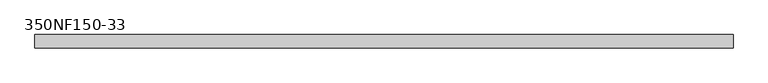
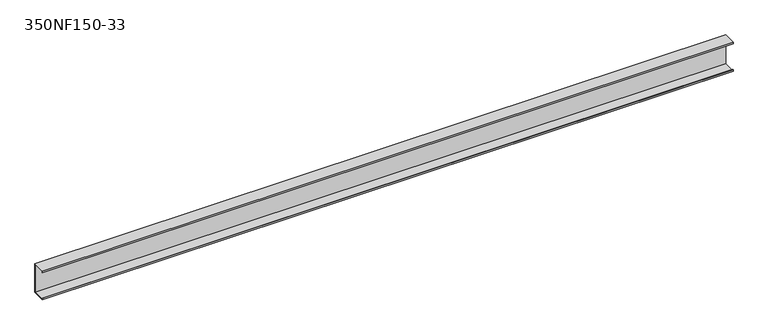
"""IFC4 building model written with IfcOpenShell, lengths in millimetres: beam geometry, BIMSF-SSMA-S : 350NF150-33."""

from ifc_helpers import new_model, si_unit, frame, origin, place, context, project, spatial, polyline, outline, extrude, source, transform, mapped, element, save


def beam_350nf150_33_9bf1c67c(model_context):
    return source(origin(), model_context, "Body", "SweptSolid", [
        extrude(outline(polyline([(19.05, 44.45), (19.05, -44.45), (-19.05, -44.45), (-19.05, -39.6748), (-18.1676842, -39.6748), (-18.1676842, -43.5676842), (18.1676842, -43.5676842), (18.1676842, 43.5676842), (-18.1676842, 43.5676842), (-18.1676842, 39.6748), (-19.05, 39.6748), (-19.05, 44.45), (19.05, 44.45)])), frame((-1008.1102634, 0.0, 0.0), z_axis=(1.0, 0.0, 0.0), x_axis=(0.0, 1.0, 0.0)), (0.0, 0.0, 1.0), 2016.2205268),
    ])


if __name__ == "__main__":
    model = new_model("IFC4")
    model_context = context("Model", 3, world=origin())
    ifc_project = project(units=[si_unit("LENGTHUNIT", "METRE", prefix="MILLI")], contexts=[model_context])
    site = spatial("IfcSite", under=ifc_project)
    building = spatial("IfcBuilding", under=site)
    placement = place(None, origin())
    beam_350nf150_33_shape = beam_350nf150_33_9bf1c67c(model_context)
    element("IfcBeam", 1, ObjectType="BIMSF-SSMA-S : 350NF150-33", at=placement, inside=building, context=model_context, shape_type="MappedRepresentation", body=[
        mapped(beam_350nf150_33_shape, transform((0.0, 0.0, 0.0), x_axis=(1.0, 0.0, 0.0), y_axis=(0.0, 1.0, 0.0), z_axis=(0.0, 0.0, 1.0))),
    ])
    save(model, "model.ifc")
